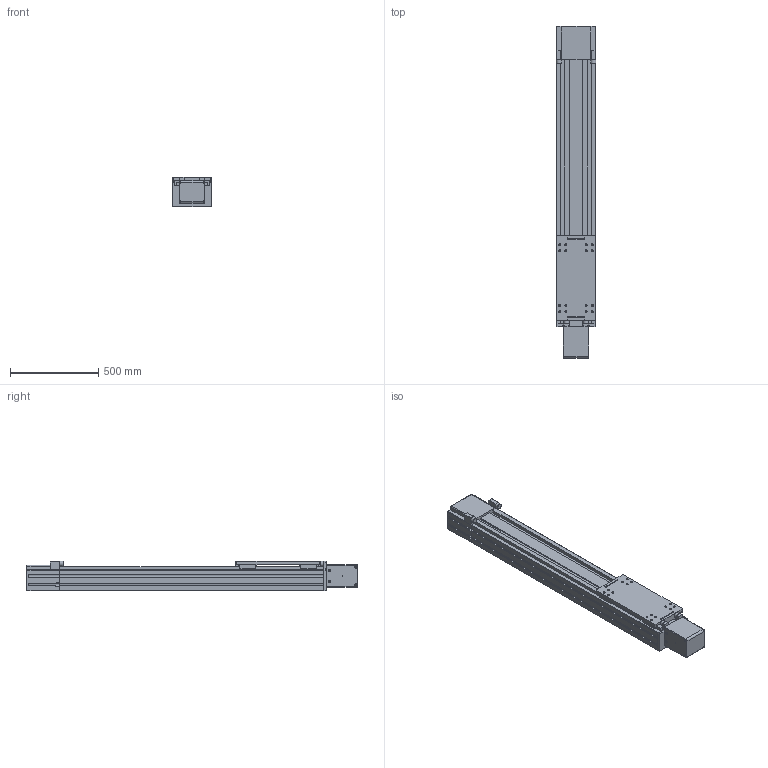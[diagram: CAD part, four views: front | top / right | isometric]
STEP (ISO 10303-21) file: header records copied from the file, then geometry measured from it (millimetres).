
FILE_DESCRIPTION((''),'2;1');
FILE_NAME('\\Tecnoc00\tecno center\Direzione Tecnica\ARCHIVIO DISEGNI\CAD\Modline\3D\serie T\Tc 220\Tcs 220.stp','2010-02-15T14:01:16',('sluciani'),(''),'Autodesk Inventor 2009','Autodesk Inventor 2009','');
FILE_SCHEMA(('AUTOMOTIVE_DESIGN { 1 0 10303 214 1 1 1 1 }'));
Length unit declared in the file: millimetre
Products named in the file (9): Tcs 220; Profilo Logyca; Tlf Tcs220; Piastra di coll Tcs220; Tlm Tc 220_280; Guida taglia 25; Piastra Tcs 220; pattino taglia 25; Cinghia l75
Assembly tree (12 placements, depth 2):
  Tcs 220
    Profilo Logyca
    Tlf Tcs220
    Piastra di coll Tcs220
    Tlm Tc 220_280
    Guida taglia 25  x2
    Piastra Tcs 220
    pattino taglia 25  x4
    Cinghia l75
Bounding box: 225.46 x 1885 x 170.01 mm (x, y, z)
Volume: 47226001.3 mm3; surface area: 3328766.9 mm2
Topology: 13 solids, 13 shells, 778 faces, 1971 edges, 1285 vertices
Faces by surface type: plane 501, cylinder 149, bspline 110, torus 12, cone 4, sphere 2
Full cylindrical faces by diameter (mm): 10 x16, 13 x4, 14 x4, 30 x4
Entity records: 23476 total; most frequent: CARTESIAN_POINT 5070, ORIENTED_EDGE 3658, DIRECTION 3539, EDGE_CURVE 1829, VECTOR 1437, LINE 1437, VERTEX_POINT 1236, AXIS2_PLACEMENT_3D 1051
